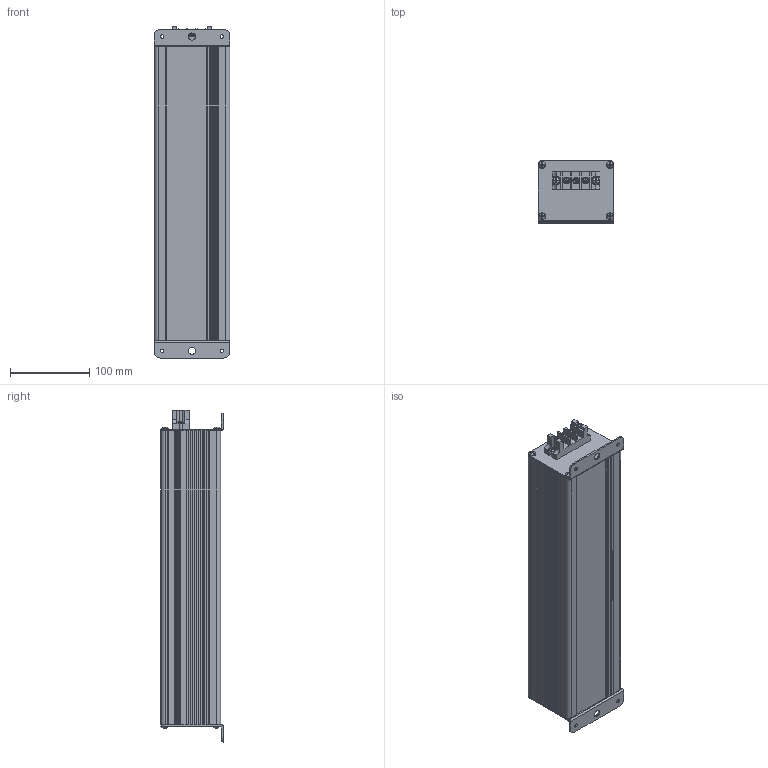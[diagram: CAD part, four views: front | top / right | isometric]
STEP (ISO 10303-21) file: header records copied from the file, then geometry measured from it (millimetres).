
FILE_DESCRIPTION(/* description */ ('','CAx-IF Rec.Pracs.---Representation and Presentation of Product Manufacturing Information (PMI)---4.0---2014-10-13'),/* implementation_level */ '2;1');
FILE_NAME(/* name */ 'H:\04_배터리_전기종\저부하용 배터리 케이스_3D\LB-11V75AH-TB\LB-11V75AH-TB.stp',/* time_stamp */ '2022-12-08T15:50:28+09:00',/* author */ ('jjang'),/* organization */ (''),/* preprocessor_version */ 'ST-DEVELOPER v18.1',/* originating_system */ 'Autodesk Inventor 2021',/* authorisation */ '');
FILE_SCHEMA (('AP242_MANAGED_MODEL_BASED_3D_ENGINEERING_MIM_LF { 1 0 10303 442 1 1 4 }'));
Length unit declared in the file: inch
Products named in the file (1): LB-11V75AH-TB_Shrinkwrap_1
Bounding box: 95.5 x 78.2 x 418.29 mm (x, y, z)
Volume: 407227.2 mm3; surface area: 326215.1 mm2
Topology: 1 solids, 1 shells, 655 faces, 1933 edges, 1296 vertices
Faces by surface type: plane 426, cylinder 204, torus 15, bspline 10
Full cylindrical faces by diameter (mm): 3.8 x10, 4 x8, 4.4 x4, 4.5 x8, 7.084 x3, 7.8 x3, 8.8 x10, 9 x2
Entity records: 23963 total; most frequent: CARTESIAN_POINT 5822, ORIENTED_EDGE 3866, DIRECTION 3630, EDGE_CURVE 1933, VERTEX_POINT 1296, AXIS2_PLACEMENT_3D 1242, LINE 1146, VECTOR 1146
